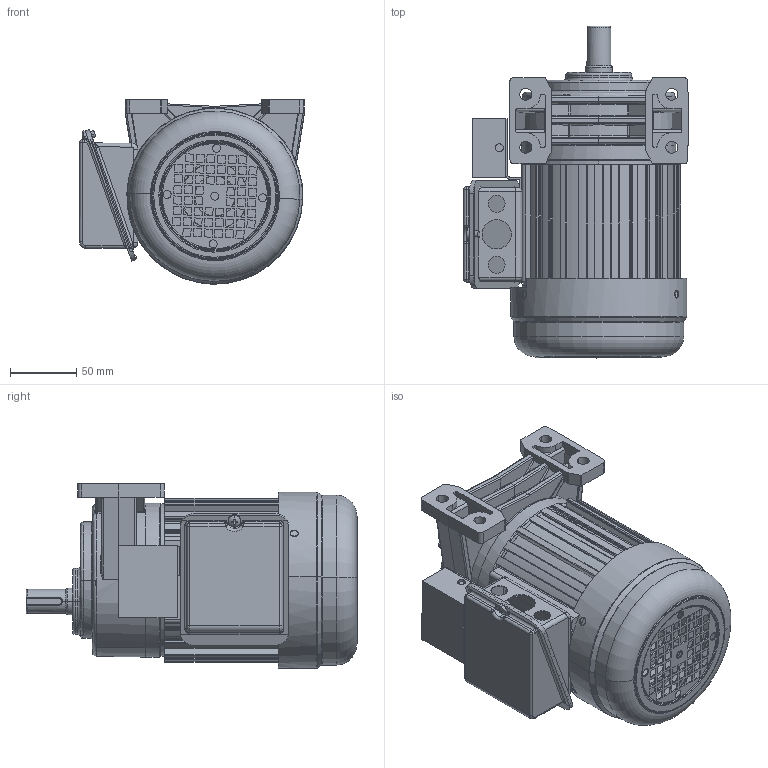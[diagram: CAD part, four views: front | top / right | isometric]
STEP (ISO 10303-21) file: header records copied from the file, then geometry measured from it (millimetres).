
FILE_DESCRIPTION (( 'STEP AP203' ), '1' );
FILE_NAME ('等眈100W拏宒湍价陬.STEP', '2020-04-23T02:17:36', ( 'china' ), ( 'china' ), 'SwSTEP 2.0', 'SolidWorks 2019', '' );
FILE_SCHEMA (( 'CONFIG_CONTROL_DESIGN' ));
Length unit declared in the file: millimetre
Products named in the file (5): 100W价陬瑞欶; 淕霜ん; 等眈100W拏宒湍价陬; 等眈100W1#拏宒; 100W棠憤迖殤
Assembly tree (4 placements, depth 2):
  等眈100W拏宒湍价陬
    等眈100W1#拏宒
    100W棠憤迖殤
    100W价陬瑞欶
    淕霜ん
Bounding box: 169.43 x 250 x 138.8 mm (x, y, z)
Volume: 921274.5 mm3; surface area: 380398.1 mm2
Topology: 8 solids, 9 shells, 1391 faces, 3730 edges, 2351 vertices
Faces by surface type: plane 520, cylinder 487, bspline 291, torus 58, cone 29, sphere 6
Entity records: 60309 total; most frequent: CARTESIAN_POINT 26311, ORIENTED_EDGE 7364, DIRECTION 6527, EDGE_CURVE 3682, AXIS2_PLACEMENT_3D 2353, VERTEX_POINT 2351, VECTOR 1821, LINE 1821
